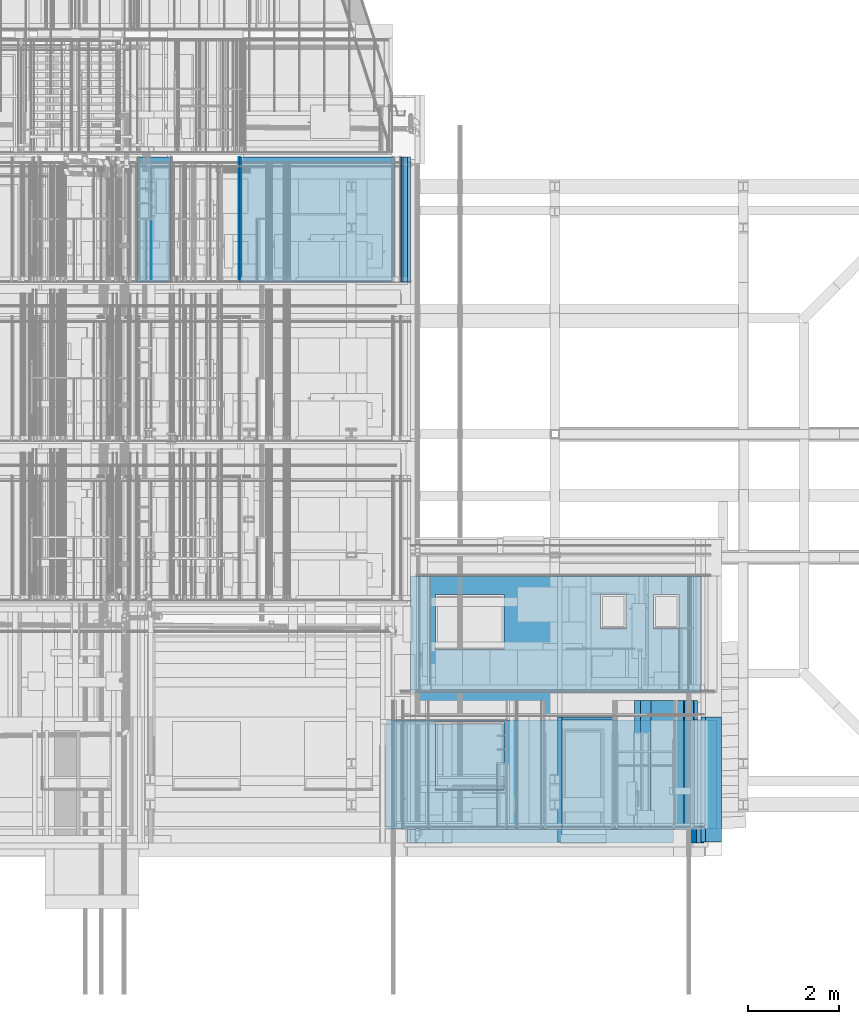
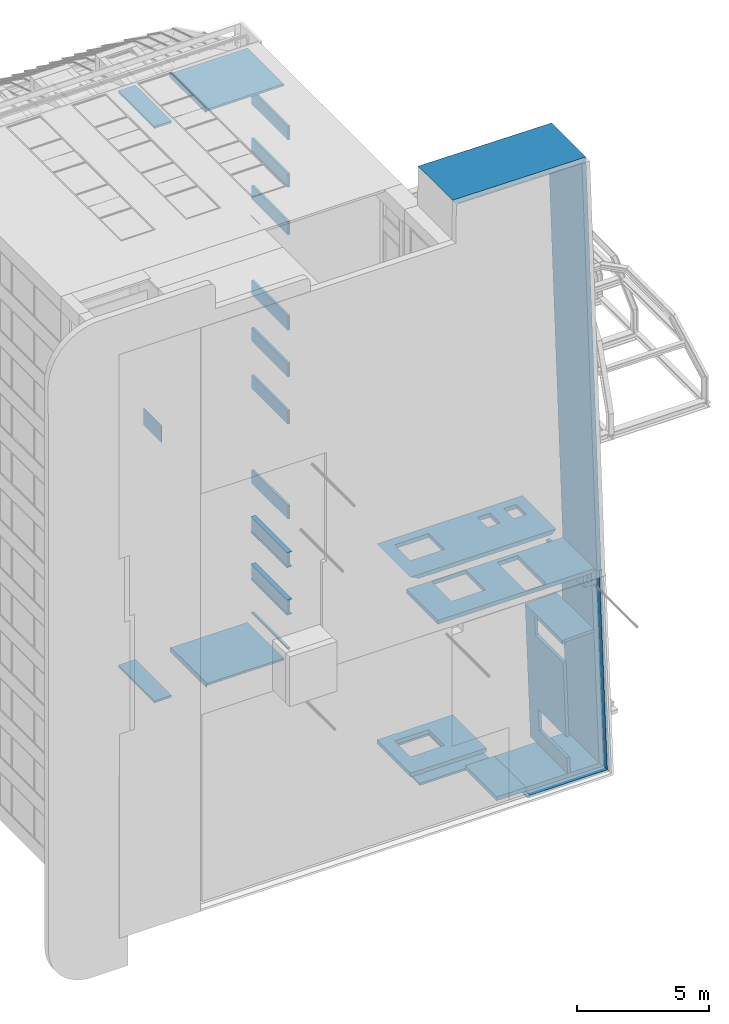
# One storey, part 19 of 583: 43 walls, 10 openings.
"""IFC2X3 building model written with IfcOpenShell, lengths in metres."""

import ifcopenshell
import ifcopenshell.guid

model = None  # the IFC model being written
_history = None  # IfcOwnerHistory: only IFC2X3 demands one
_inside = {}  # id of a spatial element -> (the spatial element, [elements in it])
_under = {}  # id of a project, library or spatial element -> (it, [spatial elements below it])
_declared = {}  # id of a project -> (the project, [libraries it declares])
_typed = {}  # id of a type object -> (the type object, [elements of that type])
_made_of = {}  # id of a material, layer set ... -> (it, [elements and type objects made of it])


def new_model(schema):
    """Start an empty IFC model of exactly this schema.

    Asked for "IFC4X3", IfcOpenShell would pick the latest addendum, in which some entities
    have other attributes; the version numbers below select the first issue.
    IFC2X3 requires an IfcOwnerHistory on every rooted entity: one is made here for all.
    """
    global model, _history
    if schema == "IFC4X3":
        model = ifcopenshell.file(schema_version=(4, 3, 0, 0))
    else:
        model = ifcopenshell.file(schema=schema)
    _inside.clear()
    _under.clear()
    _declared.clear()
    _typed.clear()
    _made_of.clear()
    _history = None
    if model.schema == "IFC2X3":
        org = make("IfcOrganization", Name="unknown")
        user = make(
            "IfcPersonAndOrganization",
            ThePerson=make("IfcPerson", FamilyName="unknown"),
            TheOrganization=org,
        )
        app = make(
            "IfcApplication",
            ApplicationDeveloper=org,
            Version="unknown",
            ApplicationFullName="unknown",
            ApplicationIdentifier="unknown",
        )
        _history = make(
            "IfcOwnerHistory",
            OwningUser=user,
            OwningApplication=app,
            ChangeAction="ADDED",
            CreationDate=0,
        )
    return model


def make(cls, **values):
    """One entity of the class cls with the attributes given. An attribute that is None is left unset."""
    return model.create_entity(
        cls, **{name: value for name, value in values.items() if value is not None}
    )


def entity(cls, *values):
    """Any entity or typed value of the class cls, its attributes in the order of the schema. None: left unset."""
    e = model.create_entity(cls)
    for i, value in enumerate(values):
        if value is not None:
            e[i] = value
    return e


def rooted(cls, **values):
    """An entity with a GlobalId (a new one), such as an element, a storey or a relation."""
    return make(cls, GlobalId=ifcopenshell.guid.new(), OwnerHistory=_history, **values)


def si_unit(unit_type, name, prefix=None):
    """IfcSIUnit, for example si_unit("LENGTHUNIT", "METRE", prefix="MILLI")."""
    return make("IfcSIUnit", UnitType=unit_type, Prefix=prefix, Name=name)


def converted_unit(unit_type, name, factor, base, dimensions=None, offset=None):
    """IfcConversionBasedUnit, such as the inch: factor (a typed value) times the base unit."""
    return make(
        "IfcConversionBasedUnit"
        if offset is None
        else "IfcConversionBasedUnitWithOffset",
        ConversionOffset=offset,
        Dimensions=None
        if dimensions is None
        else entity("IfcDimensionalExponents", *dimensions),
        UnitType=unit_type,
        Name=name,
        ConversionFactor=make(
            "IfcMeasureWithUnit", ValueComponent=factor, UnitComponent=base
        ),
    )


def derived_unit(unit_type, elements):
    """IfcDerivedUnit: a product of units, each with its exponent."""
    return make(
        "IfcDerivedUnit",
        Elements=[
            make("IfcDerivedUnitElement", Unit=unit, Exponent=power)
            for unit, power in elements
        ],
        UnitType=unit_type,
    )


def money_unit(currency):
    """IfcMonetaryUnit."""
    return make("IfcMonetaryUnit", Currency=currency)


def assignment(units):
    """IfcUnitAssignment: the units of a project."""
    return None if units is None else make("IfcUnitAssignment", Units=units)


def point(xyz):
    """IfcCartesianPoint."""
    return None if xyz is None else make("IfcCartesianPoint", Coordinates=xyz)


def direction(xyz):
    """IfcDirection."""
    return None if xyz is None else make("IfcDirection", DirectionRatios=xyz)


def frame(location, z_axis=None, x_axis=None):
    """IfcAxis2Placement3D, a coordinate frame: its origin and axes. An axis left out is left unset."""
    return make(
        "IfcAxis2Placement3D",
        Location=point(location),
        Axis=direction(z_axis),
        RefDirection=direction(x_axis),
    )


def frame_2d(location, x_axis=None):
    """IfcAxis2Placement2D, a coordinate frame in the plane: its origin and x axis."""
    return make(
        "IfcAxis2Placement2D", Location=point(location), RefDirection=direction(x_axis)
    )


def origin_with_axes():
    """The frame at (0, 0, 0) with the z axis (0, 0, 1) and the x axis (1, 0, 0) written out."""
    return frame((0.0, 0.0, 0.0), z_axis=(0.0, 0.0, 1.0), x_axis=(1.0, 0.0, 0.0))


def place(relative_to, where):
    """IfcLocalPlacement: puts the frame where relative to a parent placement (None: the world)."""
    return make(
        "IfcLocalPlacement", PlacementRelTo=relative_to, RelativePlacement=where
    )


def context(
    kind, dimensions, precision=None, world=None, true_north=None, identifier=None
):
    """IfcGeometricRepresentationContext, for example the 3D "Model" context."""
    return make(
        "IfcGeometricRepresentationContext",
        ContextIdentifier=identifier,
        ContextType=kind,
        CoordinateSpaceDimension=dimensions,
        Precision=precision,
        WorldCoordinateSystem=world,
        TrueNorth=true_north,
    )


def subcontext(parent, identifier, kind, view, scale=None):
    """IfcGeometricRepresentationSubContext, for example "Body" below "Model"."""
    return make(
        "IfcGeometricRepresentationSubContext",
        ContextIdentifier=identifier,
        ContextType=kind,
        ParentContext=parent,
        TargetScale=scale,
        TargetView=view,
    )


def project(units=None, contexts=None):
    """IfcProject with its units and contexts."""
    return rooted(
        "IfcProject",
        Name="project",
        RepresentationContexts=contexts,
        UnitsInContext=assignment(units),
    )


def spatial(cls, under=None, at=None, **own):
    """A site, building, storey or space (cls), placed at a placement, below another one or the project."""
    s = rooted(cls, ObjectPlacement=at, **own)
    if under is not None:
        _under.setdefault(under.id(), (under, []))[1].append(s)
    return s


def polyline(points):
    """IfcPolyline through the points."""
    return make("IfcPolyline", Points=[point(p) for p in points])


def profile(cls, at=None, kind="AREA", **sizes):
    """A parametric profile (cls). Its sizes go by their IFC names, for example OverallWidth=200.0."""
    return make(cls, ProfileType=kind, Position=at, **sizes)


def rectangle(**sizes):
    """IfcRectangleProfileDef."""
    return profile("IfcRectangleProfileDef", **sizes)


def outline(outer, holes=None, kind="AREA"):
    """IfcArbitraryClosedProfileDef: a profile drawn as a closed curve; with holes, ...WithVoids."""
    if holes is None:
        return make("IfcArbitraryClosedProfileDef", ProfileType=kind, OuterCurve=outer)
    return make(
        "IfcArbitraryProfileDefWithVoids",
        ProfileType=kind,
        OuterCurve=outer,
        InnerCurves=holes,
    )


def extrude(swept, where, along, depth):
    """IfcExtrudedAreaSolid: the profile swept, set in the frame where, extruded along a direction by depth."""
    return make(
        "IfcExtrudedAreaSolid",
        SweptArea=swept,
        Position=where,
        ExtrudedDirection=direction(along),
        Depth=depth,
    )


def shape(context_of_items, identifier, shape_type, items):
    """IfcShapeRepresentation: the items that make up one representation, for example the "Body"."""
    return make(
        "IfcShapeRepresentation",
        ContextOfItems=context_of_items,
        RepresentationIdentifier=identifier,
        RepresentationType=shape_type,
        Items=items,
    )


def material(Name=None, Category=None):
    """IfcMaterial."""
    return make("IfcMaterial", Name=Name, Category=Category)


def made_of(thing, what):
    """Note that an element or type object is made of a material, layer set ...; save() writes the relation."""
    if what is not None:
        _made_of.setdefault(what.id(), (what, []))[1].append(thing)
    return thing


def type_object(cls, material=None, **own):
    """A type object (cls), such as IfcWallType, which elements share."""
    return made_of(rooted(cls, **own), material)


def element(
    cls,
    number,
    at=None,
    inside=None,
    cuts=None,
    type_object=None,
    material=None,
    context=None,
    identifier="Body",
    shape_type=None,
    held_by="IfcProductDefinitionShape",
    body=None,
    shapes=None,
    **own,
):
    """One element of the class cls, such as IfcWall. Its Tag is "e" and its number.

    at: its placement. inside: the storey or other place that contains it. cuts: it is an
    opening in that element (IfcRelVoidsElement). A single representation is given by context,
    identifier, shape_type and body (its items); several are given by shapes. held_by: the class
    of the entity that holds the representations. save() writes the other relations.
    """
    e = rooted(cls, Tag="e%d" % number, ObjectPlacement=at, **own)
    if body is not None:
        shapes = [shape(context, identifier, shape_type, body)]
    if shapes is not None:
        e.Representation = make(held_by, Representations=shapes)
    if inside is not None:
        _inside.setdefault(inside.id(), (inside, []))[1].append(e)
    if cuts is not None:
        rooted(
            "IfcRelVoidsElement", RelatingBuildingElement=cuts, RelatedOpeningElement=e
        )
    if type_object is not None:
        _typed.setdefault(type_object.id(), (type_object, []))[1].append(e)
    return made_of(e, material)


def aggregate(whole, parts):
    """IfcRelAggregates: a whole, such as a stair, and the parts it consists of."""
    return rooted("IfcRelAggregates", RelatingObject=whole, RelatedObjects=parts)


def save(model, path):
    """Write the relations noted so far, then the file.

    IfcRelAggregates (storeys below a building ...), IfcRelContainedInSpatialStructure (elements
    in a storey), IfcRelDefinesByType, IfcRelAssociatesMaterial and IfcRelDeclares: one each for
    every whole, place, type object, material and project.
    """
    for whole, parts in _under.values():
        aggregate(whole, parts)
    for where, things in _inside.values():
        rooted(
            "IfcRelContainedInSpatialStructure",
            RelatedElements=things,
            RelatingStructure=where,
        )
    for kind, things in _typed.values():
        rooted("IfcRelDefinesByType", RelatedObjects=things, RelatingType=kind)
    for what, things in _made_of.values():
        rooted("IfcRelAssociatesMaterial", RelatedObjects=things, RelatingMaterial=what)
    for by, libraries in _declared.values():
        rooted("IfcRelDeclares", RelatingContext=by, RelatedDefinitions=libraries)
    model.write(path)


model = new_model("IFC2X3")

# Units and contexts
model_context = context("Model", 3, precision=1e-05, world=origin_with_axes(), true_north=direction((0.0, 1.0)))
body_context = subcontext(model_context, "Body", "Model", "MODEL_VIEW", scale=1.0)
ifc_project = project(units=[si_unit("LENGTHUNIT", "METRE"), si_unit("AREAUNIT", "SQUARE_METRE"), si_unit("VOLUMEUNIT", "CUBIC_METRE"), si_unit("ABSORBEDDOSEUNIT", "GRAY"), si_unit("AMOUNTOFSUBSTANCEUNIT", "MOLE"), si_unit("DOSEEQUIVALENTUNIT", "SIEVERT"), si_unit("ELECTRICCAPACITANCEUNIT", "FARAD"), si_unit("ELECTRICCHARGEUNIT", "COULOMB"), si_unit("ELECTRICCONDUCTANCEUNIT", "SIEMENS"), si_unit("ELECTRICCURRENTUNIT", "AMPERE"), si_unit("ELECTRICRESISTANCEUNIT", "OHM"), si_unit("ELECTRICVOLTAGEUNIT", "VOLT"), si_unit("ENERGYUNIT", "JOULE"), si_unit("FORCEUNIT", "NEWTON"), si_unit("FREQUENCYUNIT", "HERTZ"), si_unit("ILLUMINANCEUNIT", "LUX"), si_unit("INDUCTANCEUNIT", "HENRY"), si_unit("LUMINOUSFLUXUNIT", "LUMEN"), si_unit("LUMINOUSINTENSITYUNIT", "CANDELA"), si_unit("MAGNETICFLUXDENSITYUNIT", "TESLA"), si_unit("MAGNETICFLUXUNIT", "WEBER"), si_unit("MASSUNIT", "GRAM"), converted_unit("PLANEANGLEUNIT", "degree", entity("IfcReal", 0.0174532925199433), si_unit("PLANEANGLEUNIT", "RADIAN"), dimensions=[0, 0, 0, 0, 0, 0, 0]), si_unit("POWERUNIT", "WATT"), si_unit("PRESSUREUNIT", "PASCAL"), si_unit("RADIOACTIVITYUNIT", "BECQUEREL"), si_unit("SOLIDANGLEUNIT", "STERADIAN"), si_unit("THERMODYNAMICTEMPERATUREUNIT", "KELVIN"), si_unit("TIMEUNIT", "SECOND"), derived_unit("ACCELERATIONUNIT", [(si_unit("LENGTHUNIT", "METRE"), 1), (si_unit("TIMEUNIT", "SECOND"), -2)]), derived_unit("ANGULARVELOCITYUNIT", [(converted_unit("PLANEANGLEUNIT", "degree", entity("IfcReal", 0.0174532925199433), si_unit("PLANEANGLEUNIT", "RADIAN"), dimensions=[0, 0, 0, 0, 0, 0, 0]), 1), (si_unit("TIMEUNIT", "SECOND"), -1)]), derived_unit("CURVATUREUNIT", [(converted_unit("PLANEANGLEUNIT", "degree", entity("IfcReal", 0.0174532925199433), si_unit("PLANEANGLEUNIT", "RADIAN"), dimensions=[0, 0, 0, 0, 0, 0, 0]), 1), (si_unit("LENGTHUNIT", "METRE"), -1)]), derived_unit("DYNAMICVISCOSITYUNIT", [(si_unit("PRESSUREUNIT", "PASCAL"), 1), (si_unit("TIMEUNIT", "SECOND"), 1)]), derived_unit("HEATFLUXDENSITYUNIT", [(si_unit("POWERUNIT", "WATT"), 1), (si_unit("LENGTHUNIT", "METRE"), -2)]), derived_unit("HEATINGVALUEUNIT", [(si_unit("ENERGYUNIT", "JOULE"), 1), (si_unit("MASSUNIT", "GRAM"), -1)]), derived_unit("INTEGERCOUNTRATEUNIT", [(si_unit("TIMEUNIT", "SECOND"), -1)]), derived_unit("IONCONCENTRATIONUNIT", [(si_unit("MASSUNIT", "GRAM"), 1), (si_unit("VOLUMEUNIT", "CUBIC_METRE"), -1)]), derived_unit("ISOTHERMALMOISTURECAPACITYUNIT", [(si_unit("VOLUMEUNIT", "CUBIC_METRE"), 1), (si_unit("MASSUNIT", "GRAM"), -1)]), derived_unit("KINEMATICVISCOSITYUNIT", [(si_unit("AREAUNIT", "SQUARE_METRE"), 1), (si_unit("TIMEUNIT", "SECOND"), -1)]), derived_unit("LINEARFORCEUNIT", [(si_unit("FORCEUNIT", "NEWTON"), 1), (si_unit("LENGTHUNIT", "METRE"), -1)]), derived_unit("LINEARMOMENTUNIT", [(si_unit("FORCEUNIT", "NEWTON"), 1), (si_unit("LENGTHUNIT", "METRE"), -1)]), derived_unit("LINEARSTIFFNESSUNIT", [(si_unit("FORCEUNIT", "NEWTON"), 1), (si_unit("LENGTHUNIT", "METRE"), -1)]), derived_unit("LINEARVELOCITYUNIT", [(si_unit("LENGTHUNIT", "METRE"), 1), (si_unit("TIMEUNIT", "SECOND"), -1)]), derived_unit("LUMINOUSINTENSITYDISTRIBUTIONUNIT", [(si_unit("LUMINOUSINTENSITYUNIT", "CANDELA"), 1), (si_unit("LUMINOUSFLUXUNIT", "LUMEN"), -1)]), derived_unit("MASSDENSITYUNIT", [(si_unit("MASSUNIT", "GRAM"), 1), (si_unit("VOLUMEUNIT", "CUBIC_METRE"), -1)]), derived_unit("MASSFLOWRATEUNIT", [(si_unit("MASSUNIT", "GRAM"), 1), (si_unit("TIMEUNIT", "SECOND"), -1)]), derived_unit("MASSPERLENGTHUNIT", [(si_unit("MASSUNIT", "GRAM"), 1), (si_unit("LENGTHUNIT", "METRE"), -1)]), derived_unit("MODULUSOFELASTICITYUNIT", [(si_unit("FORCEUNIT", "NEWTON"), 1), (si_unit("AREAUNIT", "SQUARE_METRE"), -1)]), derived_unit("MODULUSOFLINEARSUBGRADEREACTIONUNIT", [(si_unit("FORCEUNIT", "NEWTON"), 1), (si_unit("LENGTHUNIT", "METRE"), -2)]), derived_unit("MODULUSOFROTATIONALSUBGRADEREACTIONUNIT", [(si_unit("FORCEUNIT", "NEWTON"), 1), (si_unit("LENGTHUNIT", "METRE"), 1)]), derived_unit("MODULUSOFSUBGRADEREACTIONUNIT", [(si_unit("FORCEUNIT", "NEWTON"), 1), (si_unit("VOLUMEUNIT", "CUBIC_METRE"), -1)]), derived_unit("MOISTUREDIFFUSIVITYUNIT", [(si_unit("VOLUMEUNIT", "CUBIC_METRE"), 1), (si_unit("TIMEUNIT", "SECOND"), -1)]), derived_unit("MOLECULARWEIGHTUNIT", [(si_unit("MASSUNIT", "GRAM"), 1), (si_unit("AMOUNTOFSUBSTANCEUNIT", "MOLE"), -1)]), derived_unit("PLANARFORCEUNIT", [(si_unit("FORCEUNIT", "NEWTON"), 1), (si_unit("LENGTHUNIT", "METRE"), -2)]), derived_unit("ROTATIONALFREQUENCYUNIT", [(si_unit("TIMEUNIT", "SECOND"), -1)]), derived_unit("ROTATIONALMASSUNIT", [(si_unit("MASSUNIT", "GRAM"), 1), (si_unit("LENGTHUNIT", "METRE"), 2)]), derived_unit("ROTATIONALSTIFFNESSUNIT", [(si_unit("FORCEUNIT", "NEWTON"), 1), (si_unit("LENGTHUNIT", "METRE"), 1), (converted_unit("PLANEANGLEUNIT", "degree", entity("IfcReal", 0.0174532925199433), si_unit("PLANEANGLEUNIT", "RADIAN"), dimensions=[0, 0, 0, 0, 0, 0, 0]), -1)]), derived_unit("SECTIONAREAINTEGRALUNIT", [(si_unit("LENGTHUNIT", "METRE"), 5)]), derived_unit("SECTIONMODULUSUNIT", [(si_unit("LENGTHUNIT", "METRE"), 3)]), derived_unit("SHEARMODULUSUNIT", [(si_unit("FORCEUNIT", "NEWTON"), 1), (si_unit("AREAUNIT", "SQUARE_METRE"), -1)]), derived_unit("SOUNDPOWERUNIT", [(si_unit("ENERGYUNIT", "JOULE"), 1), (si_unit("TIMEUNIT", "SECOND"), -1)]), derived_unit("SPECIFICHEATCAPACITYUNIT", [(si_unit("FORCEUNIT", "NEWTON"), 1), (si_unit("MASSUNIT", "GRAM"), -1), (si_unit("THERMODYNAMICTEMPERATUREUNIT", "KELVIN"), -1)]), derived_unit("TEMPERATUREGRADIENTUNIT", [(si_unit("THERMODYNAMICTEMPERATUREUNIT", "KELVIN"), 1), (si_unit("LENGTHUNIT", "METRE"), -1)]), derived_unit("THERMALADMITTANCEUNIT", [(si_unit("POWERUNIT", "WATT"), 1), (si_unit("AREAUNIT", "SQUARE_METRE"), -1), (si_unit("THERMODYNAMICTEMPERATUREUNIT", "KELVIN"), -1)]), derived_unit("THERMALCONDUCTANCEUNIT", [(si_unit("POWERUNIT", "WATT"), 1), (si_unit("LENGTHUNIT", "METRE"), -1), (si_unit("THERMODYNAMICTEMPERATUREUNIT", "KELVIN"), -1)]), derived_unit("THERMALEXPANSIONCOEFFICIENTUNIT", [(si_unit("THERMODYNAMICTEMPERATUREUNIT", "KELVIN"), -1)]), derived_unit("THERMALRESISTANCEUNIT", [(si_unit("AREAUNIT", "SQUARE_METRE"), 1), (si_unit("POWERUNIT", "WATT"), -1)]), derived_unit("THERMALTRANSMITTANCEUNIT", [(si_unit("POWERUNIT", "WATT"), 1), (si_unit("AREAUNIT", "SQUARE_METRE"), -1), (si_unit("THERMODYNAMICTEMPERATUREUNIT", "KELVIN"), -1)]), derived_unit("TORQUEUNIT", [(si_unit("FORCEUNIT", "NEWTON"), 1), (si_unit("LENGTHUNIT", "METRE"), 1)]), derived_unit("VAPORPERMEABILITYUNIT", [(si_unit("MASSUNIT", "GRAM"), 1), (si_unit("TIMEUNIT", "SECOND"), -1)]), derived_unit("VOLUMETRICFLOWRATEUNIT", [(si_unit("VOLUMEUNIT", "CUBIC_METRE"), 1), (si_unit("TIMEUNIT", "SECOND"), -1)]), derived_unit("WARPINGCONSTANTUNIT", [(si_unit("LENGTHUNIT", "METRE"), 6)]), derived_unit("WARPINGMOMENTUNIT", [(si_unit("FORCEUNIT", "NEWTON"), 1), (si_unit("LENGTHUNIT", "METRE"), 2)]), money_unit("GBP")], contexts=[model_context])

# Site, building, storey
site_placement = place(None, origin_with_axes())
site = spatial("IfcSite", under=ifc_project, at=site_placement, Name="Site", CompositionType="ELEMENT")
building_placement = place(site_placement, origin_with_axes())
building = spatial("IfcBuilding", under=site, at=building_placement, Name="Building01", CompositionType="ELEMENT")
storey_placement = place(building_placement, frame((0.0, 0.0, 20.78), z_axis=(0.0, 0.0, 1.0), x_axis=(1.0, 0.0, 0.0)))
storey = spatial("IfcBuildingStorey", under=building, at=storey_placement, Name="RL", CompositionType="ELEMENT", Elevation=20.78)

# Walls
ifc_material_1 = material(Name="A_BSUK_WallsExternal_Brick")
wall_type_1 = type_object("IfcWallType", Name="A-Walls-ExternalBrick", PredefinedType="NOTDEFINED")
wall_1_placement = place(storey_placement, frame((21.262408, -0.145, -11.3365), z_axis=(0.0, 1.0, 0.0), x_axis=(0.03707243, 0.0, -0.99931258)))
element("IfcWall", 1, at=wall_1_placement, inside=storey, type_object=wall_type_1, material=ifc_material_1, Name="A-Walls-ExternalBrick", ObjectType="A-Walls-ExternalBrick", context=body_context, shape_type="SweptSolid", body=[
    extrude(outline(polyline([(9.35991, 0.1), (0.096363, 0.1), (0.0, 0.0), (9.463689, 0.0), (9.35991, 0.1)])), origin_with_axes(), (0.0, 0.0, 1.0), 2.745),
])
wall_2_placement = place(storey_placement, frame((21.61325, -0.145, -20.793684), z_axis=(0.0, 1.0, 0.0), x_axis=(-1.0, 0.0, 0.0)))
element("IfcWall", 2, at=wall_2_placement, inside=storey, type_object=wall_type_1, material=ifc_material_1, Name="A-Walls-ExternalBrick", ObjectType="A-Walls-ExternalBrick", context=body_context, shape_type="SweptSolid", body=[
    extrude(outline(polyline([(3.493021, 0.1), (0.103779, 0.1), (0.0, 0.0), (3.593021, 0.0), (3.493021, 0.1)])), origin_with_axes(), (0.0, 0.0, 1.0), 2.745),
])
wall_3_placement = place(storey_placement, frame((18.020229, -0.145, -20.793684), z_axis=(0.0, 1.0, 0.0), x_axis=(0.0, 0.0, 1.0)))
element("IfcWall", 3, at=wall_3_placement, inside=storey, type_object=wall_type_1, material=ifc_material_1, Name="A-Walls-ExternalBrick", ObjectType="A-Walls-ExternalBrick", context=body_context, shape_type="SweptSolid", body=[
    extrude(outline(polyline([(0.114364, 0.1), (0.1, 0.1), (0.0, 0.0), (0.014361, 0.0), (0.114364, 0.1)])), origin_with_axes(), (0.0, 0.0, 1.0), 2.745),
])
wall_4_placement = place(storey_placement, frame((14.728819, -0.16, 8.002327), z_axis=(0.0, 1.0, 0.0), x_axis=(0.99997326, 0.0, -0.00731243)))
element("IfcWall", 4, at=wall_4_placement, inside=storey, type_object=wall_type_1, material=ifc_material_1, Name="A-Walls-ExternalBrick", ObjectType="A-Walls-ExternalBrick", context=body_context, shape_type="SweptSolid", body=[
    extrude(outline(polyline([(5.659049, 0.215), (0.213472, 0.215), (0.0, 0.0), (5.835176, 0.0), (5.659049, 0.215)])), origin_with_axes(), (0.0, 0.0, 1.0), 2.6),
])
wall_5_placement = place(storey_placement, frame((21.048412, -0.16, -11.336508), z_axis=(0.0, 1.0, 0.0), x_axis=(-0.03468468, 0.0, 0.99939831)))
element("IfcWall", 5, at=wall_5_placement, inside=storey, type_object=wall_type_1, material=ifc_material_1, Name="A-Walls-ExternalBrick", ObjectType="A-Walls-ExternalBrick", context=body_context, shape_type="SweptSolid", body=[
    extrude(outline(polyline([(19.301363, 0.185), (-0.006414, 0.185), (0.0, 0.0), (19.093948, 0.0), (19.301363, 0.185)])), origin_with_axes(), (0.0, 0.0, 1.0), 2.6),
])

# Wall, opening
wall_6_placement = place(storey_placement, frame((18.020229, 2.6, -20.779321), z_axis=(0.0, 1.0, 0.0), x_axis=(-1.0, 0.0, 0.0)))
wall_6 = element("IfcWall", 6, at=wall_6_placement, inside=storey, type_object=wall_type_1, material=ifc_material_1, Name="A-Walls-ExternalBrick", ObjectType="A-Walls-ExternalBrick", context=body_context, shape_type="SweptSolid", body=[
    extrude(rectangle(XDim=3.120229, YDim=0.1, at=frame_2d((1.560114, 0.05), x_axis=(-1.0, 0.0))), origin_with_axes(), (0.0, 0.0, 1.0), 3.085),
])
opening_1_placement = place(wall_6_placement, frame((1.177439, 0.0, 1.485), z_axis=(0.0, 0.0, 1.0), x_axis=(1.0, 0.0, 0.0)))
element("IfcOpeningElement", 7, at=opening_1_placement, cuts=wall_6, Name="Opening", ObjectType="Opening", context=body_context, shape_type="SweptSolid", body=[
    extrude(rectangle(XDim=1.2, YDim=1.5, at=frame_2d((-0.75, 0.6), x_axis=(0.0, -1.0))), frame((0.0, 0.0, 0.0), z_axis=(0.0, 1.0, 0.0), x_axis=(-1.0, 0.0, 0.0)), (0.0, 0.0, 1.0), 0.1),
])

# Wall
ifc_material_2 = material(Name="A_BSUK_WallsExternal_Block")
wall_type_2 = type_object("IfcWallType", Name="A-Walls-ExternalBlock", PredefinedType="NOTDEFINED")
wall_7_placement = place(storey_placement, frame((21.166058, 0.148, -11.436735), z_axis=(0.0, 1.0, 0.0), x_axis=(0.03707243, 0.0, -0.99931258)))
element("IfcWall", 8, at=wall_7_placement, inside=storey, type_object=wall_type_2, material=ifc_material_2, Name="A-Walls-ExternalBlock", ObjectType="A-Walls-ExternalBlock", context=body_context, shape_type="SweptSolid", body=[
    extrude(outline(polyline([(9.061665, 0.187), (0.182193, 0.187), (0.0, 0.0), (9.263736, 0.0), (9.061665, 0.187)])), origin_with_axes(), (0.0, 0.0, 1.0), 2.387),
])

# Wall, openings
wall_8_placement = place(storey_placement, frame((14.271539, 0.148, -11.436735), z_axis=(0.0, 1.0, 0.0), x_axis=(1.0, 0.0, 0.0)))
wall_8 = element("IfcWall", 9, at=wall_8_placement, inside=storey, type_object=wall_type_2, material=ifc_material_2, Name="A-Walls-ExternalBlock", ObjectType="A-Walls-ExternalBlock", context=body_context, shape_type="SweptSolid", body=[
    extrude(outline(polyline([(6.714401, 0.189), (0.0, 0.189), (0.0, 0.0), (6.894519, 0.0), (6.714401, 0.189)])), origin_with_axes(), (0.0, 0.0, 1.0), 2.387),
])
opening_2_placement = place(wall_8_placement, frame((3.852568, 0.0, 0.05), z_axis=(0.0, 0.0, 1.0), x_axis=(1.0, 0.0, 0.0)))
element("IfcOpeningElement", 10, at=opening_2_placement, cuts=wall_8, Name="Opening", ObjectType="Opening", context=body_context, shape_type="SweptSolid", body=[
    extrude(rectangle(XDim=0.909, YDim=2.142, at=frame_2d((-0.4545, 1.071), x_axis=(-1.0, 0.0))), frame((0.0, 0.0, 0.0), z_axis=(0.0, 1.0, 0.0), x_axis=(-1.0, 0.0, 0.0)), (0.0, 0.0, 1.0), 0.189),
])
opening_3_placement = place(wall_8_placement, frame((1.073273, 0.0, 1.15), z_axis=(0.0, 0.0, 1.0), x_axis=(1.0, 0.0, 0.0)))
element("IfcOpeningElement", 11, at=opening_3_placement, cuts=wall_8, Name="Opening", ObjectType="Opening", context=body_context, shape_type="SweptSolid", body=[
    extrude(rectangle(XDim=1.2, YDim=1.5, at=frame_2d((-0.75, 0.6), x_axis=(0.0, -1.0))), frame((0.0, 0.0, 0.0), z_axis=(0.0, 1.0, 0.0), x_axis=(-1.0, 0.0, 0.0)), (0.0, 0.0, 1.0), 0.189),
])
opening_4_placement = place(wall_8_placement, frame((1.073273, 0.0, 0.85), z_axis=(0.0, 0.0, 1.0), x_axis=(1.0, 0.0, 0.0)))
element("IfcOpeningElement", 12, at=opening_4_placement, cuts=wall_8, Name="Opening", ObjectType="Opening", context=body_context, shape_type="SweptSolid", body=[
    extrude(rectangle(XDim=0.3, YDim=1.5, at=frame_2d((-0.75, 0.15), x_axis=(0.0, -1.0))), frame((0.0, 0.0, 0.0), z_axis=(0.0, 1.0, 0.0), x_axis=(-1.0, 0.0, 0.0)), (0.0, 0.0, 1.0), 0.189),
])

# Walls
wall_9_placement = place(storey_placement, frame((16.847444, 0.148, -20.499151), z_axis=(0.0, 1.0, 0.0), x_axis=(1.0, 0.0, 3.756e-05)))
element("IfcWall", 13, at=wall_9_placement, inside=storey, type_object=wall_type_2, material=ifc_material_2, Name="A-Walls-ExternalBlock", ObjectType="A-Walls-ExternalBlock", context=body_context, shape_type="SweptSolid", body=[
    extrude(rectangle(XDim=0.18, YDim=1.272778, at=frame_2d((0.636389, 0.09), x_axis=(0.0, -1.0))), origin_with_axes(), (0.0, 0.0, 1.0), 2.387),
])
wall_10_placement = place(storey_placement, frame((18.120222, 0.148, -20.499103), z_axis=(0.0, 1.0, 0.0), x_axis=(1.0, 0.0, 0.0)))
element("IfcWall", 14, at=wall_10_placement, inside=storey, type_object=wall_type_2, material=ifc_material_2, Name="A-Walls-ExternalBlock", ObjectType="A-Walls-ExternalBlock", context=body_context, shape_type="SweptSolid", body=[
    extrude(outline(polyline([(3.389265, 0.195), (0.0, 0.195), (0.0, 0.0), (3.194902, 0.0), (3.389265, 0.195)])), origin_with_axes(), (0.0, 0.0, 1.0), 2.387),
])

# Wall, opening
wall_11_placement = place(storey_placement, frame((14.8, 3.135, -20.499228), z_axis=(0.0, 1.0, 0.0), x_axis=(1.0, 0.0, 3.756e-05)))
wall_11 = element("IfcWall", 15, at=wall_11_placement, inside=storey, type_object=wall_type_2, material=ifc_material_2, Name="A-Walls-ExternalBlock", ObjectType="A-Walls-ExternalBlock", context=body_context, shape_type="SweptSolid", body=[
    extrude(rectangle(XDim=3.320219, YDim=0.18, at=frame_2d((1.66011, 0.09), x_axis=(1.0, 0.0))), origin_with_axes(), (0.0, 0.0, 1.0), 2.55),
])
opening_5_placement = place(wall_11_placement, frame((0.542783, 0.18, 0.95), z_axis=(0.0, 0.0, 1.0), x_axis=(1.0, 0.0, 0.0)))
element("IfcOpeningElement", 16, at=opening_5_placement, cuts=wall_11, Name="Opening", ObjectType="Opening", context=body_context, shape_type="SweptSolid", body=[
    extrude(rectangle(XDim=1.2, YDim=1.5, at=frame_2d((0.75, 0.6), x_axis=(0.0, -1.0))), frame((0.0, 0.0, 0.0), z_axis=(0.0, -1.0, 0.0), x_axis=(1.0, 0.0, 0.0)), (3.756e-05, 0.0, 1.0), 0.18),
])

# Wall, openings
wall_12_placement = place(storey_placement, frame((14.8, 3.135, -11.436735), z_axis=(0.0, 1.0, 0.0), x_axis=(1.0, 0.0, 0.0)))
wall_12 = element("IfcWall", 17, at=wall_12_placement, inside=storey, type_object=wall_type_2, material=ifc_material_2, Name="A-Walls-ExternalBlock", ObjectType="A-Walls-ExternalBlock", context=body_context, shape_type="SweptSolid", body=[
    extrude(outline(polyline([(6.185941, 0.189), (0.368, 0.189), (0.0, 0.0), (6.366058, 0.0), (6.185941, 0.189)])), origin_with_axes(), (0.0, 0.0, 1.0), 2.55),
])
opening_6_placement = place(wall_12_placement, frame((0.54279, 0.0, 0.95), z_axis=(0.0, 0.0, 1.0), x_axis=(1.0, 0.0, 0.0)))
element("IfcOpeningElement", 18, at=opening_6_placement, cuts=wall_12, Name="Opening", ObjectType="Opening", context=body_context, shape_type="SweptSolid", body=[
    extrude(rectangle(XDim=1.2, YDim=1.5, at=frame_2d((-0.75, 0.6), x_axis=(0.0, -1.0))), frame((0.0, 0.0, 0.0), z_axis=(0.0, 1.0, 0.0), x_axis=(-1.0, 0.0, 0.0)), (0.0, 0.0, 1.0), 0.189),
])
opening_7_placement = place(wall_12_placement, frame((4.162294, 0.0, 1.4), z_axis=(0.0, 0.0, 1.0), x_axis=(1.0, 0.0, 0.0)))
element("IfcOpeningElement", 19, at=opening_7_placement, cuts=wall_12, Name="Opening", ObjectType="Opening", context=body_context, shape_type="SweptSolid", body=[
    extrude(rectangle(XDim=0.75, YDim=0.56, at=frame_2d((-0.28, 0.375), x_axis=(0.0, -1.0))), frame((0.0, 0.0, 0.0), z_axis=(0.0, 1.0, 0.0), x_axis=(-1.0, 0.0, 0.0)), (0.0, 0.0, 1.0), 0.189),
])
opening_8_placement = place(wall_12_placement, frame((5.323903, 0.0, 1.4), z_axis=(0.0, 0.0, 1.0), x_axis=(1.0, 0.0, 0.0)))
element("IfcOpeningElement", 20, at=opening_8_placement, cuts=wall_12, Name="Opening", ObjectType="Opening", context=body_context, shape_type="SweptSolid", body=[
    extrude(rectangle(XDim=0.75, YDim=0.56, at=frame_2d((-0.28, 0.375), x_axis=(0.0, -1.0))), frame((0.0, 0.0, 0.0), z_axis=(0.0, 1.0, 0.0), x_axis=(-1.0, 0.0, 0.0)), (0.0, 0.0, 1.0), 0.189),
])

# Walls
wall_13_placement = place(storey_placement, frame((14.63, 12.13, -20.18), z_axis=(0.0, 1.0, 0.0), x_axis=(0.0, 0.0, 1.0)))
element("IfcWall", 21, at=wall_13_placement, inside=storey, type_object=wall_type_2, material=ifc_material_2, Name="A-Walls-ExternalBlock", ObjectType="A-Walls-ExternalBlock", context=body_context, shape_type="SweptSolid", body=[
    extrude(rectangle(XDim=0.077, YDim=0.1, at=frame_2d((0.0385, 0.05), x_axis=(1.0, 0.0))), origin_with_axes(), (0.0, 0.0, 1.0), 2.74),
])
wall_14_placement = place(storey_placement, frame((14.45, 12.13, -20.61), z_axis=(0.0, 1.0, 0.0), x_axis=(-1.0, 0.0, 0.0)))
element("IfcWall", 22, at=wall_14_placement, inside=storey, type_object=wall_type_2, material=ifc_material_2, Name="A-Walls-ExternalBlock", ObjectType="A-Walls-ExternalBlock", context=body_context, shape_type="SweptSolid", body=[
    extrude(rectangle(XDim=3.347, YDim=0.1, at=frame_2d((1.6735, 0.05), x_axis=(1.0, 0.0))), origin_with_axes(), (0.0, 0.0, 1.0), 2.74),
])
wall_15_placement = place(storey_placement, frame((9.55018, 12.13, -20.61), z_axis=(0.0, 1.0, 0.0), x_axis=(-1.0, 0.0, 0.0)))
element("IfcWall", 23, at=wall_15_placement, inside=storey, type_object=wall_type_2, material=ifc_material_2, Name="A-Walls-ExternalBlock", ObjectType="A-Walls-ExternalBlock", context=body_context, shape_type="SweptSolid", body=[
    extrude(rectangle(XDim=0.1, YDim=0.75018, at=frame_2d((0.37509, 0.05), x_axis=(0.0, -1.0))), origin_with_axes(), (0.0, 0.0, 1.0), 2.74),
])
for number, where, z_axis, x_axis, name in (
    (24, (14.63, 12.13, -18.537), (0.0, 1.0, 0.0), (0.0, 0.0, 1.0), "A-Walls-ExternalBlock"),
    (25, (14.63, 12.13, -16.347), (0.0, 1.0, 0.0), (0.0, 0.0, 1.0), "A-Walls-ExternalBlock"),
):
    element("IfcWall", number, at=place(storey_placement, frame(where, z_axis=z_axis, x_axis=x_axis)), inside=storey, type_object=wall_type_2, material=ifc_material_2, Name=name, ObjectType="A-Walls-ExternalBlock", context=body_context, shape_type="SweptSolid", body=[
        extrude(rectangle(XDim=0.624, YDim=0.1, at=frame_2d((0.312, 0.05), x_axis=(1.0, 0.0))), origin_with_axes(), (0.0, 0.0, 1.0), 2.74),
    ])
wall_16_placement = place(storey_placement, frame((14.63, 12.13, -14.157124), z_axis=(0.0, 1.0, 0.0), x_axis=(0.0, 0.0, 1.0)))
element("IfcWall", 26, at=wall_16_placement, inside=storey, type_object=wall_type_2, material=ifc_material_2, Name="A-Walls-ExternalBlock", ObjectType="A-Walls-ExternalBlock", context=body_context, shape_type="SweptSolid", body=[
    extrude(rectangle(XDim=0.624124, YDim=0.1, at=frame_2d((0.312062, 0.05), x_axis=(-1.0, 0.0))), origin_with_axes(), (0.0, 0.0, 1.0), 2.74),
])
for number, where, z_axis, x_axis, name in (
    (27, (14.63, 12.13, -9.777), (0.0, 1.0, 0.0), (0.0, 0.0, 1.0), "A-Walls-ExternalBlock"),
    (28, (14.63, 12.13, -7.587), (0.0, 1.0, 0.0), (0.0, 0.0, 1.0), "A-Walls-ExternalBlock"),
):
    element("IfcWall", number, at=place(storey_placement, frame(where, z_axis=z_axis, x_axis=x_axis)), inside=storey, type_object=wall_type_2, material=ifc_material_2, Name=name, ObjectType="A-Walls-ExternalBlock", context=body_context, shape_type="SweptSolid", body=[
        extrude(rectangle(XDim=0.624, YDim=0.1, at=frame_2d((0.312, 0.05), x_axis=(1.0, 0.0))), origin_with_axes(), (0.0, 0.0, 1.0), 2.74),
    ])
wall_17_placement = place(storey_placement, frame((14.63, 12.13, -5.433), z_axis=(0.0, 1.0, 0.0), x_axis=(0.0, 0.0, 1.0)))
element("IfcWall", 29, at=wall_17_placement, inside=storey, type_object=wall_type_2, material=ifc_material_2, Name="A-Walls-ExternalBlock", ObjectType="A-Walls-ExternalBlock", context=body_context, shape_type="SweptSolid", body=[
    extrude(rectangle(XDim=0.1, YDim=0.66, at=frame_2d((0.33, 0.05), x_axis=(0.0, -1.0))), origin_with_axes(), (0.0, 0.0, 1.0), 2.74),
])
for number, where, z_axis, x_axis, name in (
    (30, (14.63, 12.13, -1.017), (0.0, 1.0, 0.0), (0.0, 0.0, 1.0), "A-Walls-ExternalBlock"),
    (31, (14.63, 12.13, 1.173), (0.0, 1.0, 0.0), (0.0, 0.0, 1.0), "A-Walls-ExternalBlock"),
    (32, (14.63, 12.13, 3.363), (0.0, 1.0, 0.0), (0.0, 0.0, 1.0), "A-Walls-ExternalBlock"),
):
    element("IfcWall", number, at=place(storey_placement, frame(where, z_axis=z_axis, x_axis=x_axis)), inside=storey, type_object=wall_type_2, material=ifc_material_2, Name=name, ObjectType="A-Walls-ExternalBlock", context=body_context, shape_type="SweptSolid", body=[
        extrude(rectangle(XDim=0.624, YDim=0.1, at=frame_2d((0.312, 0.05), x_axis=(1.0, 0.0))), origin_with_axes(), (0.0, 0.0, 1.0), 2.74),
    ])
wall_18_placement = place(storey_placement, frame((9.55018, 12.13, 5.93), z_axis=(0.0, 1.0, 0.0), x_axis=(-1.0, 0.0, 0.0)))
element("IfcWall", 33, at=wall_18_placement, inside=storey, type_object=wall_type_2, material=ifc_material_2, Name="A-Walls-ExternalBlock", ObjectType="A-Walls-ExternalBlock", context=body_context, shape_type="SweptSolid", body=[
    extrude(rectangle(XDim=0.1, YDim=0.75018, at=frame_2d((0.37509, 0.05), x_axis=(0.0, -1.0))), origin_with_axes(), (0.0, 0.0, 1.0), 2.74),
])
wall_19_placement = place(storey_placement, frame((14.45, 12.13, 5.93), z_axis=(0.0, 1.0, 0.0), x_axis=(-1.0, 0.0, 0.0)))
element("IfcWall", 34, at=wall_19_placement, inside=storey, type_object=wall_type_2, material=ifc_material_2, Name="A-Walls-ExternalBlock", ObjectType="A-Walls-ExternalBlock", context=body_context, shape_type="SweptSolid", body=[
    extrude(rectangle(XDim=3.36982, YDim=0.1, at=frame_2d((1.68491, 0.05), x_axis=(1.0, 0.0))), origin_with_axes(), (0.0, 0.0, 1.0), 2.74),
])

# Wall, openings
ifc_material_3 = material(Name="A_BSUK_WallsInternal_Block")
wall_type_3 = type_object("IfcWallType", Name="A-Walls-InternalBlock", PredefinedType="NOTDEFINED")
wall_20_placement = place(storey_placement, frame((19.838621, 0.148, -14.396515), z_axis=(0.0, 1.0, 0.0), x_axis=(0.03696906, 0.0, -0.99931641)))
wall_20 = element("IfcWall", 35, at=wall_20_placement, inside=storey, type_object=wall_type_3, material=ifc_material_3, Name="A-Walls-InternalBlock", ObjectType="A-Walls-InternalBlock", context=body_context, shape_type="SweptSolid", body=[
    extrude(outline(polyline([(6.101916, 0.131), (-0.131696, 0.131), (0.0, 0.0), (6.106763, 0.0), (6.101916, 0.131)])), origin_with_axes(), (0.0, 0.0, 1.0), 2.812),
])
opening_9_placement = place(wall_20_placement, frame((4.38669, 0.0, 0.0), z_axis=(0.0, 0.0, 1.0), x_axis=(1.0, 0.0, 0.0)))
element("IfcOpeningElement", 36, at=opening_9_placement, cuts=wall_20, Name="Opening", ObjectType="Opening", context=body_context, shape_type="SweptSolid", body=[
    extrude(rectangle(XDim=2.1, YDim=0.984, at=frame_2d((-0.492, 1.05), x_axis=(0.0, -1.0))), frame((0.0, 0.0, 0.0), z_axis=(0.0, 1.0, 0.0), x_axis=(-1.0, 0.0, 0.0)), (0.0, 0.0, 1.0), 0.131),
])
opening_10_placement = place(wall_20_placement, frame((0.061318, 0.0, 0.0), z_axis=(0.0, 0.0, 1.0), x_axis=(1.0, 0.0, 0.0)))
element("IfcOpeningElement", 37, at=opening_10_placement, cuts=wall_20, Name="Opening", ObjectType="Opening", context=body_context, shape_type="SweptSolid", body=[
    extrude(rectangle(XDim=2.1, YDim=0.834, at=frame_2d((-0.417, 1.05), x_axis=(0.0, -1.0))), frame((0.0, 0.0, 0.0), z_axis=(0.0, 1.0, 0.0), x_axis=(-1.0, 0.0, 0.0)), (0.0, 0.0, 1.0), 0.131),
])

# Walls
wall_21_placement = place(storey_placement, frame((19.702842, 0.148, -14.269752), z_axis=(0.0, 1.0, 0.0), x_axis=(0.99943358, 0.0, 0.03365301)))
element("IfcWall", 38, at=wall_21_placement, inside=storey, type_object=wall_type_3, material=ifc_material_3, Name="A-Walls-InternalBlock", ObjectType="A-Walls-InternalBlock", context=body_context, shape_type="SweptSolid", body=[
    extrude(outline(polyline([(1.380693, 0.131), (0.131175, 0.131), (0.0, 0.0), (1.380245, 0.0), (1.380693, 0.131)])), origin_with_axes(), (0.0, 0.0, 1.0), 2.812),
])
ifc_material_4 = material(Name="A_BSUK_WallsInternal")
wall_type_4 = type_object("IfcWallType", Name="A-Walls-Internal", PredefinedType="NOTDEFINED")
wall_22_placement = place(storey_placement, frame((21.00546, 0.148, -12.151901), z_axis=(0.0, 1.0, 0.0), x_axis=(-0.99893377, 0.0, -0.04616624)))
element("IfcWall", 39, at=wall_22_placement, inside=storey, type_object=wall_type_4, material=ifc_material_4, Name="A-Walls-Internal", ObjectType="A-Walls-Internal", context=body_context, shape_type="SweptSolid", body=[
    extrude(outline(polyline([(0.199603, 0.15), (-0.001365, 0.15), (0.0, 0.0), (0.351255, 0.0), (0.199603, 0.15)])), origin_with_axes(), (0.0, 0.0, 1.0), 2.812),
])
wall_23_placement = place(storey_placement, frame((20.65458, 0.148, -12.168117), z_axis=(0.0, 1.0, 0.0), x_axis=(-0.03521735, 0.0, 0.99937968)))
element("IfcWall", 40, at=wall_23_placement, inside=storey, type_object=wall_type_4, material=ifc_material_4, Name="A-Walls-Internal", ObjectType="A-Walls-Internal", context=body_context, shape_type="SweptSolid", body=[
    extrude(outline(polyline([(0.537433, 0.15), (0.151653, 0.15), (0.0, 0.0), (0.542719, 0.0), (0.537433, 0.15)])), origin_with_axes(), (0.0, 0.0, 1.0), 2.812),
])
ifc_material_5 = material(Name="A_BSUK_WallInternal_Finishes_Plasterboard")
wall_type_5 = type_object("IfcWallType", Name="default", PredefinedType="NOTDEFINED")
wall_24_placement = place(storey_placement, frame((11.068, 12.13, -20.475), z_axis=(0.0, 1.0, 0.0), x_axis=(0.0, 0.0, -1.0)))
element("IfcWall", 41, at=wall_24_placement, inside=storey, type_object=wall_type_5, material=ifc_material_5, Name="default", ObjectType="default", context=body_context, shape_type="SweptSolid", body=[
    extrude(outline(polyline([(-0.013, 0.013), (0.0, 0.0), (0.205, 0.0), (0.205, 0.013), (-0.013, 0.013)])), origin_with_axes(), (0.0, 0.0, 1.0), 2.74),
])
ifc_material_6 = material(Name="A_BSUK_Insulation")
wall_25_placement = place(storey_placement, frame((11.103, 12.13, -20.51), z_axis=(0.0, 1.0, 0.0), x_axis=(0.0, 0.0, -1.0)))
element("IfcWall", 42, at=wall_25_placement, inside=storey, type_object=wall_type_5, material=ifc_material_6, Name="default", ObjectType="default", context=body_context, shape_type="SweptSolid", body=[
    extrude(outline(polyline([(-0.036, 0.036), (0.0, 0.0), (0.17, 0.0), (0.17, 0.036), (-0.036, 0.036)])), origin_with_axes(), (0.0, 0.0, 1.0), 2.74),
])
wall_26_placement = place(storey_placement, frame((14.8, 12.13, -17.878), z_axis=(0.0, 1.0, 0.0), x_axis=(-1.0, 0.0, 0.0)))
element("IfcWall", 43, at=wall_26_placement, inside=storey, type_object=wall_type_5, material=ifc_material_5, Name="default", ObjectType="default", context=body_context, shape_type="SweptSolid", body=[
    extrude(outline(polyline([(0.218, 0.013), (0.0, 0.013), (0.0, 0.0), (0.205, 0.0), (0.218, 0.013)])), origin_with_axes(), (0.0, 0.0, 1.0), 2.74),
])
wall_27_placement = place(storey_placement, frame((14.8, 12.13, -17.913), z_axis=(0.0, 1.0, 0.0), x_axis=(-1.0, 0.0, 0.0)))
element("IfcWall", 44, at=wall_27_placement, inside=storey, type_object=wall_type_5, material=ifc_material_6, Name="default", ObjectType="default", context=body_context, shape_type="SweptSolid", body=[
    extrude(outline(polyline([(0.206, 0.036), (0.0, 0.036), (0.0, 0.0), (0.17, 0.0), (0.206, 0.036)])), origin_with_axes(), (0.0, 0.0, 1.0), 2.74),
])
wall_28_placement = place(storey_placement, frame((14.595, 12.13, -18.572), z_axis=(0.0, 1.0, 0.0), x_axis=(1.0, 0.0, 0.0)))
element("IfcWall", 45, at=wall_28_placement, inside=storey, type_object=wall_type_5, material=ifc_material_5, Name="default", ObjectType="default", context=body_context, shape_type="SweptSolid", body=[
    extrude(outline(polyline([(-0.013, 0.013), (0.0, 0.0), (0.205, 0.0), (0.205, 0.013), (-0.013, 0.013)])), origin_with_axes(), (0.0, 0.0, 1.0), 2.74),
])
wall_29_placement = place(storey_placement, frame((14.63, 12.13, -18.537), z_axis=(0.0, 1.0, 0.0), x_axis=(1.0, 0.0, 0.0)))
element("IfcWall", 46, at=wall_29_placement, inside=storey, type_object=wall_type_5, material=ifc_material_6, Name="default", ObjectType="default", context=body_context, shape_type="SweptSolid", body=[
    extrude(outline(polyline([(-0.036, 0.036), (0.0, 0.0), (0.17, 0.0), (0.17, 0.036), (-0.036, 0.036)])), origin_with_axes(), (0.0, 0.0, 1.0), 2.74),
])
wall_30_placement = place(storey_placement, frame((14.8, 12.13, -15.688), z_axis=(0.0, 1.0, 0.0), x_axis=(-1.0, 0.0, 0.0)))
element("IfcWall", 47, at=wall_30_placement, inside=storey, type_object=wall_type_5, material=ifc_material_5, Name="default", ObjectType="default", context=body_context, shape_type="SweptSolid", body=[
    extrude(outline(polyline([(0.218, 0.013), (0.0, 0.013), (0.0, 0.0), (0.205, 0.0), (0.218, 0.013)])), origin_with_axes(), (0.0, 0.0, 1.0), 2.74),
])
wall_31_placement = place(storey_placement, frame((14.8, 12.13, -15.723), z_axis=(0.0, 1.0, 0.0), x_axis=(-1.0, 0.0, 0.0)))
element("IfcWall", 48, at=wall_31_placement, inside=storey, type_object=wall_type_5, material=ifc_material_6, Name="default", ObjectType="default", context=body_context, shape_type="SweptSolid", body=[
    extrude(outline(polyline([(0.206, 0.036), (0.0, 0.036), (0.0, 0.0), (0.17, 0.0), (0.206, 0.036)])), origin_with_axes(), (0.0, 0.0, 1.0), 2.74),
])
wall_32_placement = place(storey_placement, frame((14.595, 12.13, -16.382), z_axis=(0.0, 1.0, 0.0), x_axis=(1.0, 0.0, 0.0)))
element("IfcWall", 49, at=wall_32_placement, inside=storey, type_object=wall_type_5, material=ifc_material_5, Name="default", ObjectType="default", context=body_context, shape_type="SweptSolid", body=[
    extrude(outline(polyline([(-0.013, 0.013), (0.0, 0.0), (0.205, 0.0), (0.205, 0.013), (-0.013, 0.013)])), origin_with_axes(), (0.0, 0.0, 1.0), 2.74),
])
wall_33_placement = place(storey_placement, frame((14.63, 12.13, -16.347), z_axis=(0.0, 1.0, 0.0), x_axis=(1.0, 0.0, 0.0)))
element("IfcWall", 50, at=wall_33_placement, inside=storey, type_object=wall_type_5, material=ifc_material_6, Name="default", ObjectType="default", context=body_context, shape_type="SweptSolid", body=[
    extrude(outline(polyline([(-0.036, 0.036), (0.0, 0.0), (0.17, 0.0), (0.17, 0.036), (-0.036, 0.036)])), origin_with_axes(), (0.0, 0.0, 1.0), 2.74),
])
wall_34_placement = place(storey_placement, frame((11.04518, 12.13, 6.1), z_axis=(0.0, 1.0, 0.0), x_axis=(0.0, 0.0, -1.0)))
element("IfcWall", 51, at=wall_34_placement, inside=storey, type_object=wall_type_5, material=ifc_material_5, Name="default", ObjectType="default", context=body_context, shape_type="SweptSolid", body=[
    extrude(outline(polyline([(0.218, 0.013), (0.0, 0.013), (0.0, 0.0), (0.205, 0.0), (0.218, 0.013)])), origin_with_axes(), (0.0, 0.0, 1.0), 2.74),
])
wall_35_placement = place(storey_placement, frame((11.08018, 12.13, 6.1), z_axis=(0.0, 1.0, 0.0), x_axis=(0.0, 0.0, -1.0)))
element("IfcWall", 52, at=wall_35_placement, inside=storey, type_object=wall_type_5, material=ifc_material_6, Name="default", ObjectType="default", context=body_context, shape_type="SweptSolid", body=[
    extrude(outline(polyline([(0.206, 0.036), (0.0, 0.036), (0.0, 0.0), (0.17, 0.0), (0.206, 0.036)])), origin_with_axes(), (0.0, 0.0, 1.0), 2.74),
])
ifc_material_7 = material(Name="A_BSUK_Walls_Timber")
wall_36_placement = place(storey_placement, frame((9.105, 12.13, -8.676129), z_axis=(0.0, 1.0, 0.0), x_axis=(0.0, 0.0, 1.0)))
element("IfcWall", 53, at=wall_36_placement, inside=storey, type_object=wall_type_5, material=ifc_material_7, Name="default", ObjectType="default", context=body_context, shape_type="SweptSolid", body=[
    extrude(rectangle(XDim=0.774714, YDim=0.015, at=frame_2d((0.387357, 0.0075), x_axis=(-1.0, 0.0))), origin_with_axes(), (0.0, 0.0, 1.0), 1.375),
])

save(model, "model.ifc")
